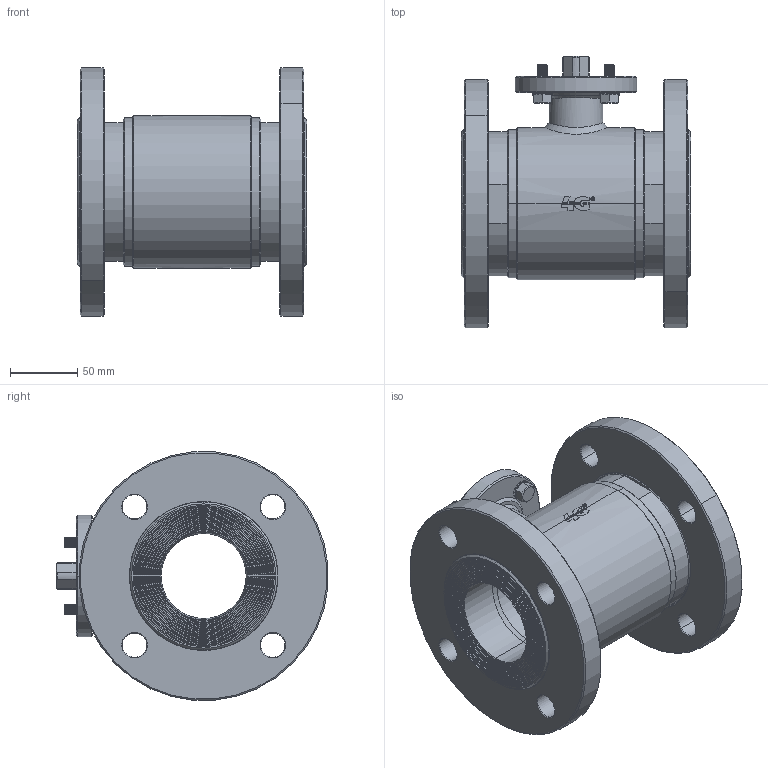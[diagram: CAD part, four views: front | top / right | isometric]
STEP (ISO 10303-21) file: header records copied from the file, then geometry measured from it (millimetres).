
FILE_DESCRIPTION((''),'2;1');
FILE_NAME('13305064410_SW0001','2026-10-14T10:04:16',('tecnico2'),('CDM Tecnoconsulting'),'CREO PARAMETRIC BY PTC INC, 2024063','CREO PARAMETRIC BY PTC INC, 2024063','');
FILE_SCHEMA(('CONFIG_CONTROL_DESIGN','SHAPE_APPEARANCE_LAYERS_GROUPS'));
Products named in the file (1): 13305064410_SW0001
Bounding box: 170 x 201.65 x 184.3 mm (x, y, z)
Volume: 1760196.7 mm3; surface area: 267715.2 mm2
Topology: 1 solids, 1 shells, 1499 faces, 4045 edges, 2620 vertices
Faces by surface type: plane 571, cylinder 414, cone 211, extrusion 111, bspline 106, torus 74, sphere 12
Entity records: 131062 total; most frequent: CARTESIAN_POINT 83087, ORIENTED_EDGE 8074, DIRECTION 6321, PRESENTATION_STYLE_ASSIGNMENT 4084, STYLED_ITEM 4038, CURVE_STYLE 4037, EDGE_CURVE 4037, VERTEX_POINT 2620
